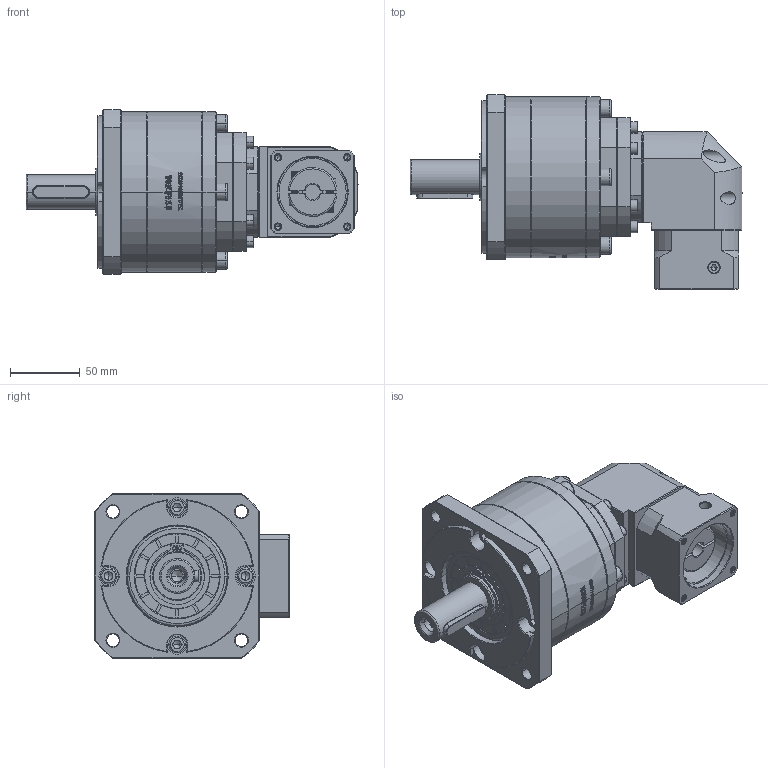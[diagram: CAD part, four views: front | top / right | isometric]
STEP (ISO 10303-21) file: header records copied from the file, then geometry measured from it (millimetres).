
FILE_DESCRIPTION (( 'STEP AP214' ), '1' );
FILE_NAME ('ZFR120A-D25-L3-11-50-70-M5.step', '2023-03-08T14:52:15', ( '' ), ( 'Microsoft' ), 'SwSTEP 2.0', 'SolidWorks 2016', '' );
FILE_SCHEMA (( 'AUTOMOTIVE_DESIGN' ));
Length unit declared in the file: millimetre
Products named in the file (1): ZFR120A-D25-L3-11-50-70-M5
Bounding box: 237.5 x 139.2 x 118 mm (x, y, z)
Volume: 1466816.8 mm3; surface area: 139070.5 mm2
Topology: 6 solids, 6 shells, 3042 faces, 8049 edges, 5163 vertices
Faces by surface type: plane 1595, bspline 637, cylinder 464, cone 346
Entity records: 162377 total; most frequent: CARTESIAN_POINT 59563, ORIENTED_EDGE 15990, DIRECTION 11813, EDGE_CURVE 7995, VERTEX_POINT 5163, LINE 5011, VECTOR 5011, AXIS2_PLACEMENT_3D 3401
